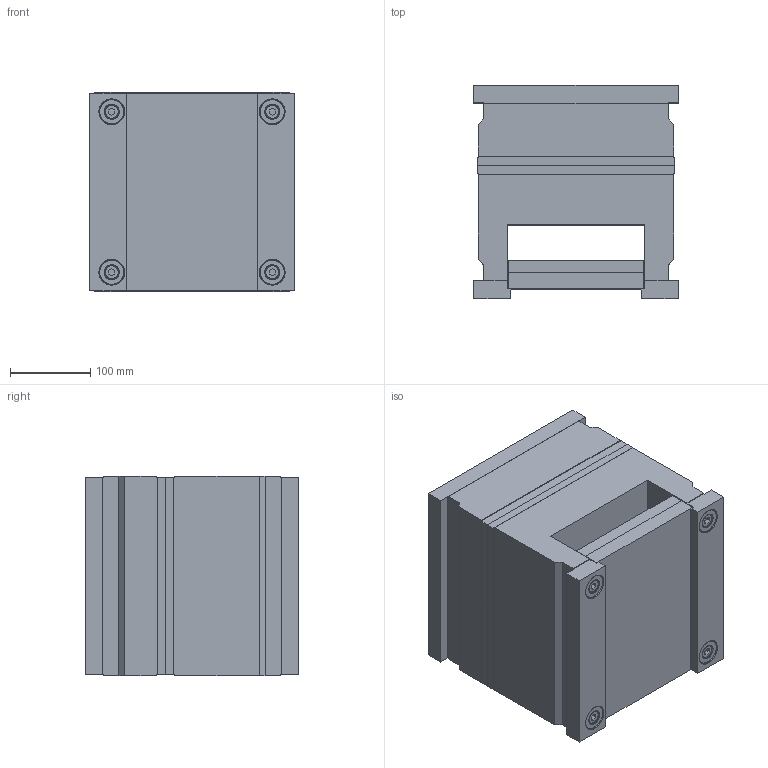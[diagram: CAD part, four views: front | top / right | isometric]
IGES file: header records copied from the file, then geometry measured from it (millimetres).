
Start section: SolidWorks IGES FILE using analytic representation for surfaces
Global section: file name: C:\Documents and Settings\K.P\My Documents\Mechanical\ALMO\CATL_EUR\RECT\2461.IGS; native system: SolidWorks 2001Plus by SolidWorks Corporation; preprocessor: Version 5.3; author: Pavel; date: 020709.092227; units: millimetre
Bounding box: 255 x 266 x 248 mm (x, y, z)
Surface area: 920062.3 mm2 (no closed solid volume)
Topology: 0 solids, 0 shells, 706 faces, 11976 edges, 11968 vertices
Faces by surface type: revolution 452, bspline 254
